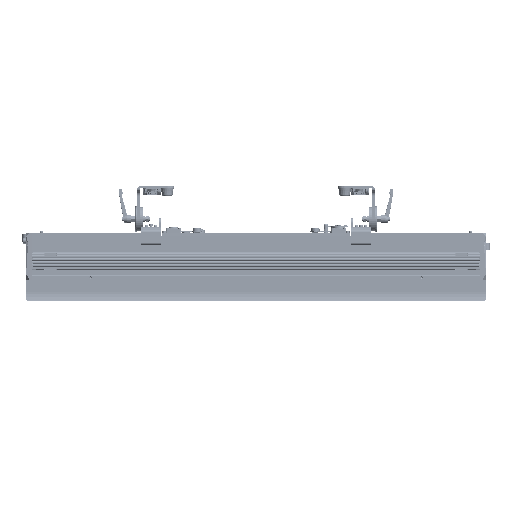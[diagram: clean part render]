
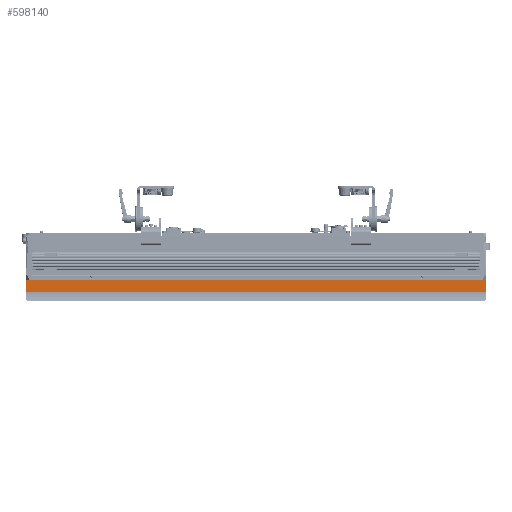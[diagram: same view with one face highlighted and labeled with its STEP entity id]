
A CAD part, left-side view. The second image highlights one B-rep face of the part: STEP entity #598140.
In plain terms, the highlighted planar face has unit normal (-1, 0, 0).
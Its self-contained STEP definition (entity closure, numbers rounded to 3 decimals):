
#597671=CARTESIAN_POINT('',(3.35,-59.7,-486.5));
#597672=VERTEX_POINT('',#597671);
#597673=CARTESIAN_POINT('',(3.35,-59.7,486.5));
#597674=VERTEX_POINT('',#597673);
#597675=CARTESIAN_POINT('',(3.35,-59.7,-486.5));
#597676=DIRECTION('',(0.,0.,1.));
#597677=VECTOR('',#597676,973.);
#597678=LINE('',#597675,#597677);
#597679=EDGE_CURVE('',#597672,#597674,#597678,.T.);
#597935=CARTESIAN_POINT('',(3.35,-20.,-499.5));
#597936=VERTEX_POINT('',#597935);
#597944=CARTESIAN_POINT('',(3.35,-20.,499.5));
#597945=VERTEX_POINT('',#597944);
#597946=CARTESIAN_POINT('',(3.35,-20.,499.5));
#597947=DIRECTION('',(-0.,-0.,-1.));
#597948=VECTOR('',#597947,999.);
#597949=LINE('',#597946,#597948);
#597950=EDGE_CURVE('',#597945,#597936,#597949,.T.);
#598018=CARTESIAN_POINT('',(3.35,-20.,-499.5));
#598019=DIRECTION('',(-1.,0.,0.));
#598020=DIRECTION('',(0.,0.,1.));
#598021=AXIS2_PLACEMENT_3D('',#598018,#598019,#598020);
#598022=PLANE('',#598021);
#598023=CARTESIAN_POINT('',(3.35,-52.,499.5));
#598024=VERTEX_POINT('',#598023);
#598025=CARTESIAN_POINT('',(3.35,-20.,499.5));
#598026=DIRECTION('',(-0.,-1.,-0.));
#598027=VECTOR('',#598026,32.);
#598028=LINE('',#598025,#598027);
#598029=EDGE_CURVE('',#597945,#598024,#598028,.T.);
#598030=ORIENTED_EDGE('',*,*,#598029,.F.);
#598031=ORIENTED_EDGE('',*,*,#597950,.T.);
#598032=CARTESIAN_POINT('',(3.35,-52.,-499.5));
#598033=VERTEX_POINT('',#598032);
#598034=CARTESIAN_POINT('',(3.35,-20.,-499.5));
#598035=DIRECTION('',(-0.,-1.,-0.));
#598036=VECTOR('',#598035,32.);
#598037=LINE('',#598034,#598036);
#598038=EDGE_CURVE('',#597936,#598033,#598037,.T.);
#598039=ORIENTED_EDGE('',*,*,#598038,.T.);
#598040=CARTESIAN_POINT('',(3.35,-54.,-497.5));
#598041=VERTEX_POINT('',#598040);
#598042=CARTESIAN_POINT('',(3.35,-52.,-497.5));
#598043=DIRECTION('',(1.,-0.,-0.));
#598044=DIRECTION('',(0.,0.,1.));
#598045=AXIS2_PLACEMENT_3D('',#598042,#598043,#598044);
#598046=CIRCLE('',#598045,2.);
#598047=EDGE_CURVE('',#598041,#598033,#598046,.T.);
#598048=ORIENTED_EDGE('',*,*,#598047,.F.);
#598049=CARTESIAN_POINT('',(3.35,-54.,-488.5));
#598050=VERTEX_POINT('',#598049);
#598051=CARTESIAN_POINT('',(3.35,-54.,-497.5));
#598052=DIRECTION('',(0.,0.,1.));
#598053=VECTOR('',#598052,9.);
#598054=LINE('',#598051,#598053);
#598055=EDGE_CURVE('',#598041,#598050,#598054,.T.);
#598056=ORIENTED_EDGE('',*,*,#598055,.T.);
#598057=CARTESIAN_POINT('',(3.35,-56.,-486.5));
#598058=VERTEX_POINT('',#598057);
#598059=CARTESIAN_POINT('',(3.35,-56.,-488.5));
#598060=DIRECTION('',(1.,-0.,-0.));
#598061=DIRECTION('',(0.,0.,1.));
#598062=AXIS2_PLACEMENT_3D('',#598059,#598060,#598061);
#598063=CIRCLE('',#598062,2.);
#598064=EDGE_CURVE('',#598050,#598058,#598063,.T.);
#598065=ORIENTED_EDGE('',*,*,#598064,.T.);
#598066=CARTESIAN_POINT('',(3.35,-56.,-486.5));
#598067=DIRECTION('',(-0.,-1.,-0.));
#598068=VECTOR('',#598067,3.7);
#598069=LINE('',#598066,#598068);
#598070=EDGE_CURVE('',#598058,#597672,#598069,.T.);
#598071=ORIENTED_EDGE('',*,*,#598070,.T.);
#598072=ORIENTED_EDGE('',*,*,#597679,.T.);
#598073=CARTESIAN_POINT('',(3.35,-56.,486.5));
#598074=VERTEX_POINT('',#598073);
#598075=CARTESIAN_POINT('',(3.35,-59.7,486.5));
#598076=DIRECTION('',(0.,1.,0.));
#598077=VECTOR('',#598076,3.7);
#598078=LINE('',#598075,#598077);
#598079=EDGE_CURVE('',#597674,#598074,#598078,.T.);
#598080=ORIENTED_EDGE('',*,*,#598079,.T.);
#598081=CARTESIAN_POINT('',(3.35,-54.,488.5));
#598082=VERTEX_POINT('',#598081);
#598083=CARTESIAN_POINT('',(3.35,-56.,488.5));
#598084=DIRECTION('',(1.,-0.,-0.));
#598085=DIRECTION('',(0.,0.,1.));
#598086=AXIS2_PLACEMENT_3D('',#598083,#598084,#598085);
#598087=CIRCLE('',#598086,2.);
#598088=EDGE_CURVE('',#598074,#598082,#598087,.T.);
#598089=ORIENTED_EDGE('',*,*,#598088,.T.);
#598090=CARTESIAN_POINT('',(3.35,-54.,497.5));
#598091=VERTEX_POINT('',#598090);
#598092=CARTESIAN_POINT('',(3.35,-54.,488.5));
#598093=DIRECTION('',(0.,0.,1.));
#598094=VECTOR('',#598093,9.);
#598095=LINE('',#598092,#598094);
#598096=EDGE_CURVE('',#598082,#598091,#598095,.T.);
#598097=ORIENTED_EDGE('',*,*,#598096,.T.);
#598098=CARTESIAN_POINT('',(3.35,-52.,497.5));
#598099=DIRECTION('',(1.,0.,0.));
#598100=DIRECTION('',(0.,0.,-1.));
#598101=AXIS2_PLACEMENT_3D('',#598098,#598099,#598100);
#598102=CIRCLE('',#598101,2.);
#598103=EDGE_CURVE('',#598024,#598091,#598102,.T.);
#598104=ORIENTED_EDGE('',*,*,#598103,.F.);
#598105=EDGE_LOOP('',(#598030,#598031,#598039,#598048,#598056,#598065,#598071,#598072,#598080,#598089,#598097,#598104));
#598106=FACE_BOUND('',#598105,.T.);
#598107=CARTESIAN_POINT('',(3.35,-50.2,-362.75));
#598108=VERTEX_POINT('',#598107);
#598109=CARTESIAN_POINT('',(3.35,-50.2,-360.));
#598110=DIRECTION('',(1.,0.,0.));
#598111=DIRECTION('',(0.,0.,-1.));
#598112=AXIS2_PLACEMENT_3D('',#598109,#598110,#598111);
#598113=CIRCLE('',#598112,2.75);
#598114=EDGE_CURVE('',#598108,#598108,#598113,.T.);
#598115=ORIENTED_EDGE('',*,*,#598114,.T.);
#598116=EDGE_LOOP('',(#598115));
#598117=FACE_BOUND('',#598116,.T.);
#598118=CARTESIAN_POINT('',(3.35,-50.2,357.25));
#598119=VERTEX_POINT('',#598118);
#598120=CARTESIAN_POINT('',(3.35,-50.2,360.));
#598121=DIRECTION('',(1.,0.,0.));
#598122=DIRECTION('',(0.,0.,-1.));
#598123=AXIS2_PLACEMENT_3D('',#598120,#598121,#598122);
#598124=CIRCLE('',#598123,2.75);
#598125=EDGE_CURVE('',#598119,#598119,#598124,.T.);
#598126=ORIENTED_EDGE('',*,*,#598125,.T.);
#598127=EDGE_LOOP('',(#598126));
#598128=FACE_BOUND('',#598127,.T.);
#598129=CARTESIAN_POINT('',(3.35,-50.2,-2.75));
#598130=VERTEX_POINT('',#598129);
#598131=CARTESIAN_POINT('',(3.35,-50.2,0.));
#598132=DIRECTION('',(1.,0.,0.));
#598133=DIRECTION('',(0.,0.,-1.));
#598134=AXIS2_PLACEMENT_3D('',#598131,#598132,#598133);
#598135=CIRCLE('',#598134,2.75);
#598136=EDGE_CURVE('',#598130,#598130,#598135,.T.);
#598137=ORIENTED_EDGE('',*,*,#598136,.T.);
#598138=EDGE_LOOP('',(#598137));
#598139=FACE_BOUND('',#598138,.T.);
#598140=ADVANCED_FACE('',(#598106,#598117,#598128,#598139),#598022,.T.);
